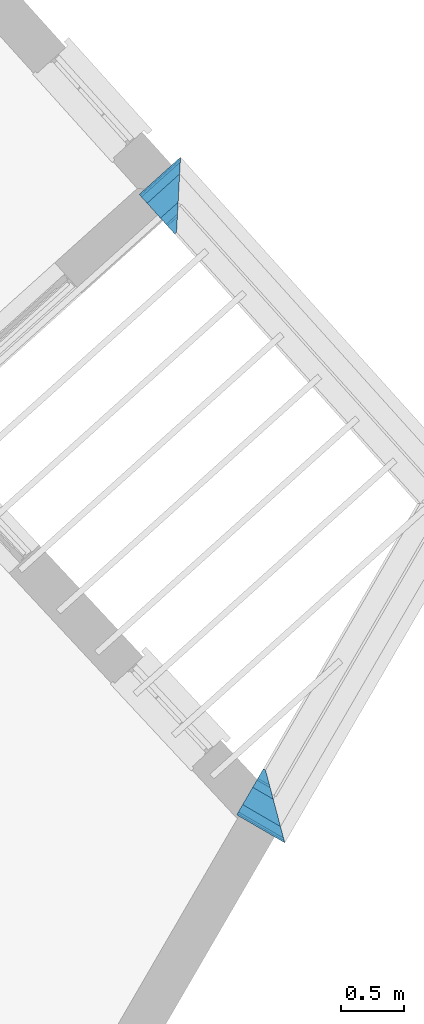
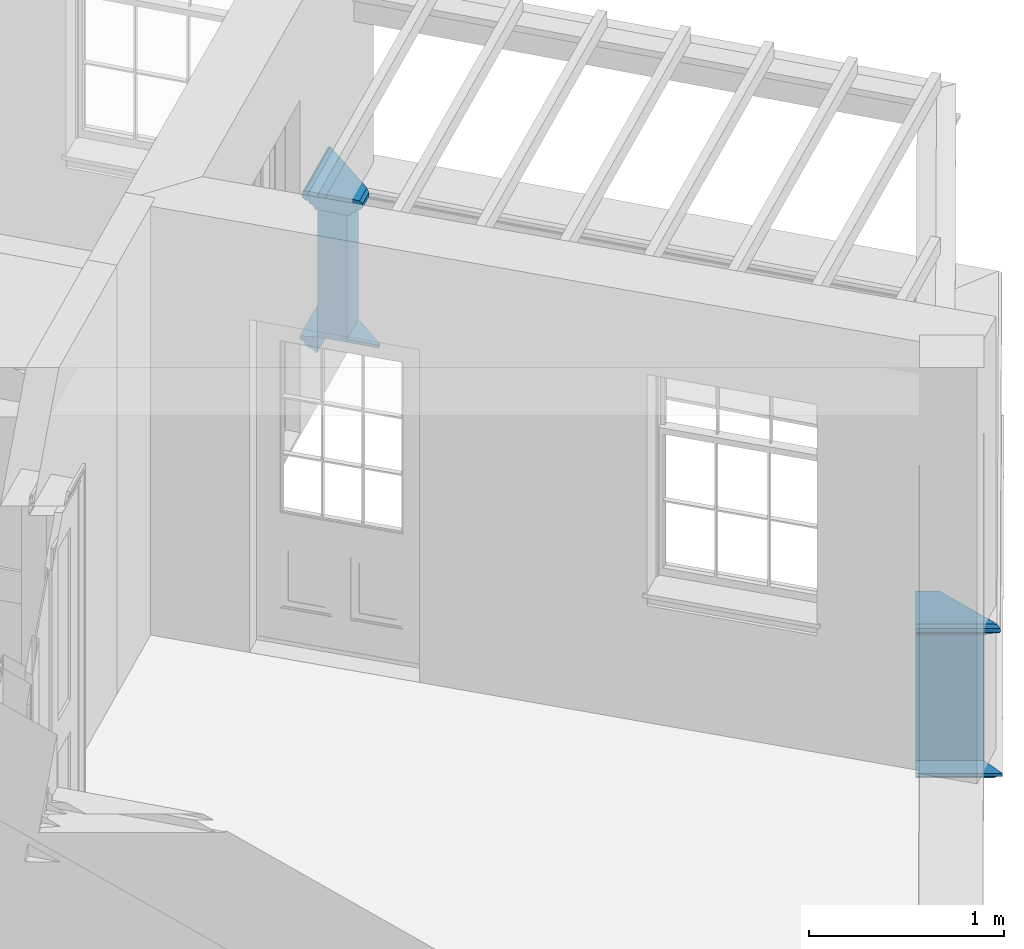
# One storey, part 6 of 7: 6 walls.
"""IFC4 building model written with IfcOpenShell, lengths in metres."""

from ifc_helpers import new_model, si_unit, frame, origin_with_axes, place, context, subcontext, project, spatial, polyline, outline, extrude, clip, halfspace, material_profile, profile_set, profile_usage, type_object, element, save


model = new_model("IFC4")

# Units and contexts
model_context = context("Model", 3, world=origin_with_axes())
body_context = subcontext(model_context, "Body", "Model", "MODEL_VIEW")
ifc_project = project(units=[si_unit("PLANEANGLEUNIT", "RADIAN"), si_unit("MASSUNIT", "GRAM", prefix="KILO"), si_unit("FORCEUNIT", "NEWTON", prefix="KILO"), si_unit("LENGTHUNIT", "METRE"), si_unit("AREAUNIT", "SQUARE_METRE"), si_unit("VOLUMEUNIT", "CUBIC_METRE")], contexts=[model_context, model_context])

# Sites, building, storey
site_1_placement = place(None, origin_with_axes())
site_1 = spatial("IfcSite", under=ifc_project, at=site_1_placement, Name="Tamar")
site_2_placement = place(site_1_placement, origin_with_axes())
site_2 = spatial("IfcSite", under=site_1, at=site_2_placement, Name="Site plot-7", CompositionType="ELEMENT")
building_placement = place(None, origin_with_axes())
building = spatial("IfcBuilding", under=site_2, at=building_placement, Name="Building plot-7", CompositionType="ELEMENT")
storey_placement = place(None, frame((0.0, 0.0, 29.15), z_axis=(0.0, 0.0, 1.0), x_axis=(1.0, 0.0, 0.0)))
storey = spatial("IfcBuildingStorey", under=building, at=storey_placement, Name="plot-7 1", CompositionType="ELEMENT", Elevation=29.15)

# Walls
ifc_material_profile_1 = material_profile(None, outline(polyline([(0.25, 0.0), (0.25, 0.795), (0.09, 0.795), (0.09, 0.02), (-0.08, 0.02), (-0.08, 0.0), (0.25, 0.0)])))
ifc_profile_set_1 = profile_set([ifc_material_profile_1])
ifc_profile_usage_1 = profile_usage(ifc_profile_set_1)
wall_type_1 = type_object("IfcWallType", Name="parapet_0", PredefinedType="PARAPET", material=ifc_profile_set_1)
wall_1_placement = place(storey_placement, frame((247.64060819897, 283.100824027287, 0.0), z_axis=(-0.864833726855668, 0.502058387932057, 0.0), x_axis=(-0.502058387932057, -0.864833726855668, 0.0)))
element("IfcWall", 1, at=wall_1_placement, inside=storey, type_object=wall_type_1, material=ifc_profile_usage_1, Name="parapet_0", context=body_context, shape_type="Clipping", body=[
    clip(clip(extrude(outline(polyline([(0.25, 0.0), (0.25, 0.795), (0.09, 0.795), (0.09, 0.02), (-0.08, 0.02), (-0.08, 0.0), (0.25, 0.0)])), origin_with_axes(), (0.0, 0.0, 1.0), 2.1), halfspace(frame((0.0, 0.0, 1.1), z_axis=(-3.61394601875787e-15, 0.0, -1.0), x_axis=(0.0, 1.0, 0.0)), True)), halfspace(frame((0.0, 0.0, 1.0), z_axis=(-0.70710678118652, 0.0, -0.707106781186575), x_axis=(0.0, 1.0, 0.0)), False)),
])
ifc_profile_usage_2 = profile_usage(ifc_profile_set_1)
wall_2_placement = place(storey_placement, frame((245.224252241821, 287.386721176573, 0.0), z_axis=(0.743394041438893, 0.668853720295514, 0.0), x_axis=(-0.668853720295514, 0.743394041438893, 0.0)))
element("IfcWall", 2, at=wall_2_placement, inside=storey, type_object=wall_type_1, material=ifc_profile_usage_2, Name="parapet_0", context=body_context, shape_type="Clipping", body=[
    clip(clip(extrude(outline(polyline([(0.25, 0.0), (0.25, 0.795), (0.09, 0.795), (0.09, 0.02), (-0.08, 0.02), (-0.08, 0.0), (0.25, 0.0)])), origin_with_axes(), (0.0, 0.0, 1.0), 2.10000000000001), halfspace(frame((0.0, 0.0, 1.10000000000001), z_axis=(0.707106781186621, 0.0, -0.707106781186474), x_axis=(0.0, 1.0, 0.0)), True)), halfspace(frame((0.0, 0.0, 1.0), z_axis=(-1.33839086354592e-14, 0.0, -1.0), x_axis=(0.0, 1.0, 0.0)), False)),
])
ifc_material_profile_2 = material_profile(None, outline(polyline([(0.265, 0.795), (0.268, 0.807), (0.274, 0.816), (0.283, 0.822), (0.295, 0.825), (0.295, 0.84), (0.305, 0.84), (0.317, 0.842), (0.326, 0.849), (0.333, 0.858), (0.335, 0.87), (0.333, 0.882), (0.326, 0.891), (0.317, 0.898), (0.305, 0.9), (0.035, 0.9), (0.023, 0.898), (0.014, 0.891), (0.007, 0.882), (0.005, 0.87), (0.007, 0.858), (0.014, 0.849), (0.023, 0.842), (0.035, 0.84), (0.045, 0.84), (0.045, 0.825), (0.057, 0.822), (0.066, 0.816), (0.072, 0.807), (0.075, 0.795), (0.265, 0.795)])))
ifc_profile_set_2 = profile_set([ifc_material_profile_2])
ifc_profile_usage_3 = profile_usage(ifc_profile_set_2)
wall_type_2 = type_object("IfcWallType", Name="parapet_1", PredefinedType="PARAPET", material=ifc_profile_set_2)
wall_3_placement = place(storey_placement, frame((247.64060819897, 283.100824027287, 0.0), z_axis=(-0.864833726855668, 0.502058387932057, 0.0), x_axis=(-0.502058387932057, -0.864833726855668, 0.0)))
element("IfcWall", 3, at=wall_3_placement, inside=storey, type_object=wall_type_2, material=ifc_profile_usage_3, Name="parapet_1", context=body_context, shape_type="Clipping", body=[
    clip(clip(extrude(outline(polyline([(0.265, 0.795), (0.268, 0.807), (0.274, 0.816), (0.283, 0.822), (0.295, 0.825), (0.295, 0.84), (0.305, 0.84), (0.317, 0.842), (0.326, 0.849), (0.333, 0.858), (0.335, 0.87), (0.333, 0.882), (0.326, 0.891), (0.317, 0.898), (0.305, 0.9), (0.035, 0.9), (0.023, 0.898), (0.014, 0.891), (0.007, 0.882), (0.005, 0.87), (0.007, 0.858), (0.014, 0.849), (0.023, 0.842), (0.035, 0.84), (0.045, 0.84), (0.045, 0.825), (0.057, 0.822), (0.066, 0.816), (0.072, 0.807), (0.075, 0.795), (0.265, 0.795)])), origin_with_axes(), (0.0, 0.0, 1.0), 2.1), halfspace(frame((0.0, 0.0, 1.1), z_axis=(-3.61394601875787e-15, 0.0, -1.0), x_axis=(0.0, 1.0, 0.0)), True)), halfspace(frame((0.0, 0.0, 1.0), z_axis=(-0.70710678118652, 0.0, -0.707106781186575), x_axis=(0.0, 1.0, 0.0)), False)),
])
ifc_profile_usage_4 = profile_usage(ifc_profile_set_2)
wall_4_placement = place(storey_placement, frame((245.224252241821, 287.386721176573, 0.0), z_axis=(0.743394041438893, 0.668853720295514, 0.0), x_axis=(-0.668853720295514, 0.743394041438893, 0.0)))
element("IfcWall", 4, at=wall_4_placement, inside=storey, type_object=wall_type_2, material=ifc_profile_usage_4, Name="parapet_1", context=body_context, shape_type="Clipping", body=[
    clip(clip(extrude(outline(polyline([(0.265, 0.795), (0.268, 0.807), (0.274, 0.816), (0.283, 0.822), (0.295, 0.825), (0.295, 0.84), (0.305, 0.84), (0.317, 0.842), (0.326, 0.849), (0.333, 0.858), (0.335, 0.87), (0.333, 0.882), (0.326, 0.891), (0.317, 0.898), (0.305, 0.9), (0.035, 0.9), (0.023, 0.898), (0.014, 0.891), (0.007, 0.882), (0.005, 0.87), (0.007, 0.858), (0.014, 0.849), (0.023, 0.842), (0.035, 0.84), (0.045, 0.84), (0.045, 0.825), (0.057, 0.822), (0.066, 0.816), (0.072, 0.807), (0.075, 0.795), (0.265, 0.795)])), origin_with_axes(), (0.0, 0.0, 1.0), 2.10000000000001), halfspace(frame((0.0, 0.0, 1.10000000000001), z_axis=(0.707106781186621, 0.0, -0.707106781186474), x_axis=(0.0, 1.0, 0.0)), True)), halfspace(frame((0.0, 0.0, 1.0), z_axis=(-1.33839086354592e-14, 0.0, -1.0), x_axis=(0.0, 1.0, 0.0)), False)),
])
ifc_material_profile_3 = material_profile(None, outline(polyline([(0.25, -0.1), (0.265, -0.1), (0.265, -0.085), (0.278, -0.084), (0.289, -0.081), (0.301, -0.074), (0.309, -0.065), (0.315, -0.055), (0.324, -0.044), (0.334, -0.038), (0.345, -0.035), (0.345, -0.015), (0.25, 0.0), (0.25, -0.1)])))
ifc_profile_set_3 = profile_set([ifc_material_profile_3])
ifc_profile_usage_5 = profile_usage(ifc_profile_set_3)
wall_type_3 = type_object("IfcWallType", Name="parapet_2", PredefinedType="PARAPET", material=ifc_profile_set_3)
wall_5_placement = place(storey_placement, frame((247.64060819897, 283.100824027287, 0.0), z_axis=(-0.864833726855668, 0.502058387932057, 0.0), x_axis=(-0.502058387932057, -0.864833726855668, 0.0)))
element("IfcWall", 5, at=wall_5_placement, inside=storey, type_object=wall_type_3, material=ifc_profile_usage_5, Name="parapet_2", context=body_context, shape_type="Clipping", body=[
    clip(clip(extrude(outline(polyline([(0.25, -0.1), (0.265, -0.1), (0.265, -0.085), (0.278, -0.084), (0.289, -0.081), (0.301, -0.074), (0.309, -0.065), (0.315, -0.055), (0.324, -0.044), (0.334, -0.038), (0.345, -0.035), (0.345, -0.015), (0.25, 0.0), (0.25, -0.1)])), origin_with_axes(), (0.0, 0.0, 1.0), 2.1), halfspace(frame((0.0, 0.0, 1.1), z_axis=(-3.61394601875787e-15, 0.0, -1.0), x_axis=(0.0, 1.0, 0.0)), True)), halfspace(frame((0.0, 0.0, 1.0), z_axis=(-0.70710678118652, 0.0, -0.707106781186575), x_axis=(0.0, 1.0, 0.0)), False)),
])
ifc_profile_usage_6 = profile_usage(ifc_profile_set_3)
wall_6_placement = place(storey_placement, frame((245.224252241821, 287.386721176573, 0.0), z_axis=(0.743394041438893, 0.668853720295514, 0.0), x_axis=(-0.668853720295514, 0.743394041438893, 0.0)))
element("IfcWall", 6, at=wall_6_placement, inside=storey, type_object=wall_type_3, material=ifc_profile_usage_6, Name="parapet_2", context=body_context, shape_type="Clipping", body=[
    clip(clip(extrude(outline(polyline([(0.25, -0.1), (0.265, -0.1), (0.265, -0.085), (0.278, -0.084), (0.289, -0.081), (0.301, -0.074), (0.309, -0.065), (0.315, -0.055), (0.324, -0.044), (0.334, -0.038), (0.345, -0.035), (0.345, -0.015), (0.25, 0.0), (0.25, -0.1)])), origin_with_axes(), (0.0, 0.0, 1.0), 2.10000000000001), halfspace(frame((0.0, 0.0, 1.10000000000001), z_axis=(0.707106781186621, 0.0, -0.707106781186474), x_axis=(0.0, 1.0, 0.0)), True)), halfspace(frame((0.0, 0.0, 1.0), z_axis=(-1.33839086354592e-14, 0.0, -1.0), x_axis=(0.0, 1.0, 0.0)), False)),
])

save(model, "model.ifc")
